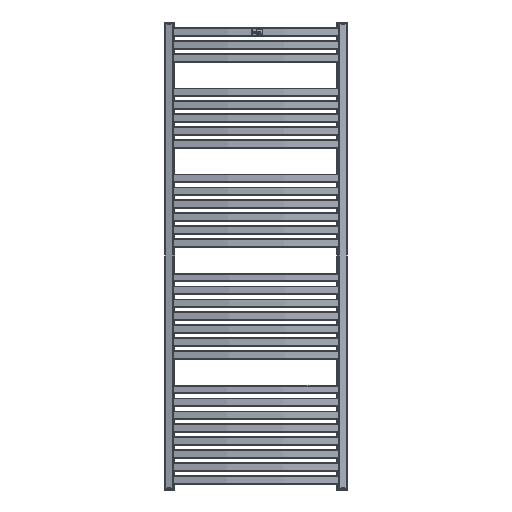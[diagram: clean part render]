
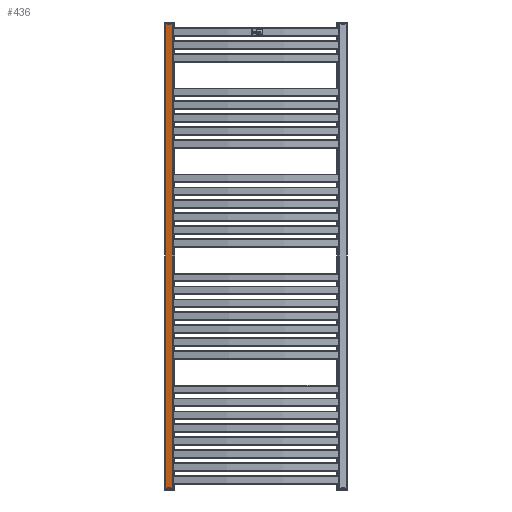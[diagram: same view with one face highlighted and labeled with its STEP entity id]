
A CAD part, front view. The second image highlights one B-rep face of the part: STEP entity #436.
In plain terms, the highlighted planar face has unit normal (-0.243, -0.97, 0) as drawn and (1, 0, 0) by its records, which use the part's own axes.
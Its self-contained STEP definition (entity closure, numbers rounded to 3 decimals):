
#436 = ADVANCED_FACE( '', ( #1137 ), #1138, .T. );
#1137 = FACE_OUTER_BOUND( '', #2195, .T. );
#1138 = PLANE( '', #2196 );
#2195 = EDGE_LOOP( '', ( #3478, #3479, #3480, #3481 ) );
#2196 = AXIS2_PLACEMENT_3D( '', #3482, #3483, #3484 );
#3478 = ORIENTED_EDGE( '', *, *, #6245, .T. );
#3479 = ORIENTED_EDGE( '', *, *, #6246, .T. );
#3480 = ORIENTED_EDGE( '', *, *, #6247, .F. );
#3481 = ORIENTED_EDGE( '', *, *, #6248, .T. );
#3482 = CARTESIAN_POINT( '', ( 15., 1626., -15. ) );
#3483 = DIRECTION( '', ( 1., 0., 0. ) );
#3484 = DIRECTION( '', ( 0., 0., -1. ) );
#6245 = EDGE_CURVE( '', #7550, #7551, #7552, .T. );
#6246 = EDGE_CURVE( '', #7551, #7553, #7554, .T. );
#6247 = EDGE_CURVE( '', #7555, #7553, #7556, .T. );
#6248 = EDGE_CURVE( '', #7555, #7550, #7557, .F. );
#7550 = VERTEX_POINT( '', #9389 );
#7551 = VERTEX_POINT( '', #9390 );
#7552 = LINE( '', #9391, #9392 );
#7553 = VERTEX_POINT( '', #9393 );
#7554 = LINE( '', #9394, #9395 );
#7555 = VERTEX_POINT( '', #9396 );
#7556 = LINE( '', #9397, #9398 );
#7557 = LINE( '', #9399, #9400 );
#9389 = CARTESIAN_POINT( '', ( 15., 1626., -12. ) );
#9390 = CARTESIAN_POINT( '', ( 15., 1626., 12. ) );
#9391 = CARTESIAN_POINT( '', ( 15., 1626., -15. ) );
#9392 = VECTOR( '', #11436, 1000. );
#9393 = CARTESIAN_POINT( '', ( 15., 0., 12. ) );
#9394 = CARTESIAN_POINT( '', ( 15., 1626., 12. ) );
#9395 = VECTOR( '', #11437, 1000. );
#9396 = CARTESIAN_POINT( '', ( 15., 0., -12. ) );
#9397 = CARTESIAN_POINT( '', ( 15., 0., -15. ) );
#9398 = VECTOR( '', #11438, 1000. );
#9399 = CARTESIAN_POINT( '', ( 15., 1626., -12. ) );
#9400 = VECTOR( '', #11439, 1000. );
#11436 = DIRECTION( '', ( 0., 0., 1. ) );
#11437 = DIRECTION( '', ( 0., -1., 0. ) );
#11438 = DIRECTION( '', ( 0., 0., 1. ) );
#11439 = DIRECTION( '', ( 0., -1., 0. ) );
